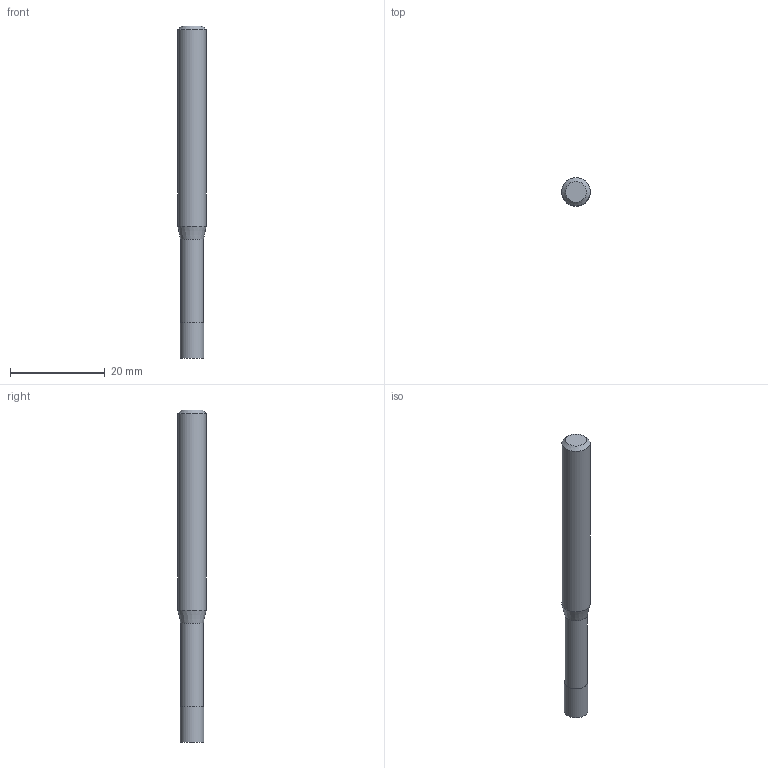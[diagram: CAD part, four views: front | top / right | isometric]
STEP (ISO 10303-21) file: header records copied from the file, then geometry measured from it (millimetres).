
FILE_DESCRIPTION((''),'2;1');
FILE_NAME('C:\Users\nsx150\AppData\Local\Temp\Mastercam 2021\3SYKECWX22\TEMP.step','2021-04-22T09:39:53',(''),(''),'STEP Write','Mastercam 2021 ... CNC Software, Inc.','');
FILE_SCHEMA(('AUTOMOTIVE_DESIGN'));
Length unit declared in the file: millimetre
Products named in the file (1): None
Bounding box: 6 x 6 x 70 mm (x, y, z)
Volume: 1715.9 mm3; surface area: 1301.7 mm2
Topology: 2 solids, 2 shells, 9 faces, 12 edges, 7 vertices
Faces by surface type: plane 4, cylinder 3, cone 2
Full cylindrical faces by diameter (mm): 4.8 x1, 5 x1, 6 x1
Entity records: 211 total; most frequent: DIRECTION 36, CARTESIAN_POINT 25, AXIS2_PLACEMENT_3D 18, ORIENTED_EDGE 14, EDGE_LOOP 14, STYLED_ITEM 12, ADVANCED_FACE 9, FACE_BOUND 8
